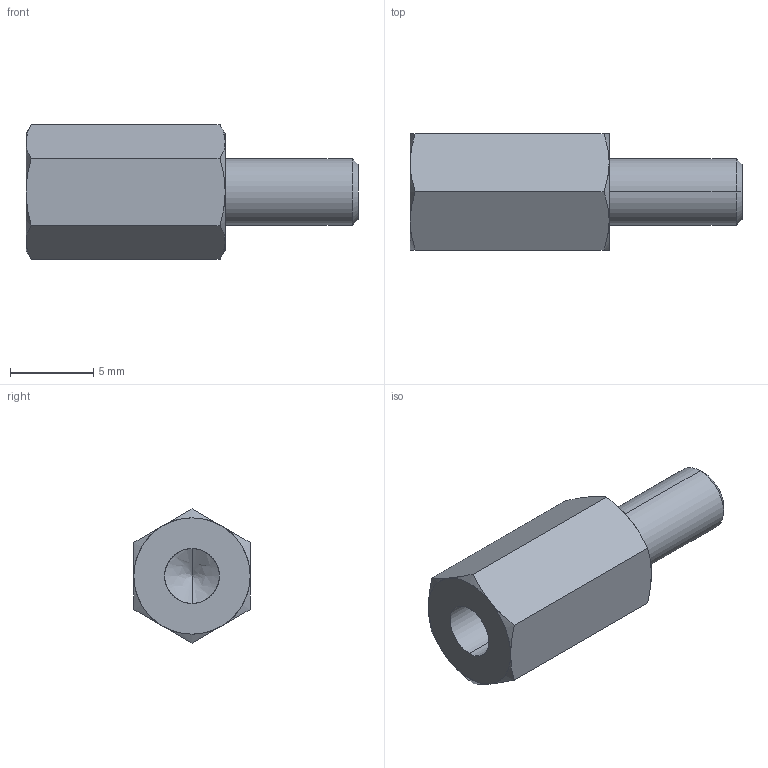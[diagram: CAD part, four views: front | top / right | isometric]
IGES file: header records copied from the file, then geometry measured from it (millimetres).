
Start section: SolidWorks IGES file using analytic representation for surfaces
Global section: file name: C:\Users\render1\Desktop\P0185_IGES\P0185.04-12.igs; native system: SolidWorks 2009; preprocessor: SolidWorks 2009; author: render1; date: 130627.112025; units: millimetre
Bounding box: 20 x 7 x 8.08 mm (x, y, z)
Surface area: 553.9 mm2 (no closed solid volume)
Topology: 0 solids, 0 shells, 29 faces, 320 edges, 318 vertices
Faces by surface type: revolution 20, bspline 9
